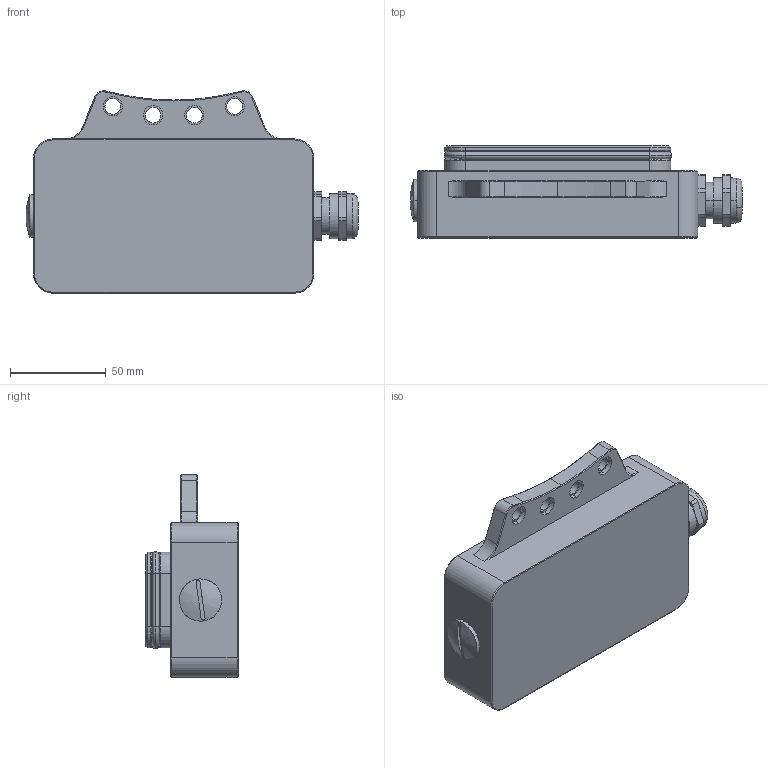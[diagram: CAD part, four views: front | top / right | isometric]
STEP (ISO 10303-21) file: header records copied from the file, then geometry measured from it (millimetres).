
FILE_DESCRIPTION (( 'STEP AP203' ), '1' );
FILE_NAME ('ECM能源组合模块主侧.STEP', '2025-02-19T02:36:17', ( 'Windows User' ), ( 'P R C' ), 'SwSTEP 2.0', 'SolidWorks 2018', '' );
FILE_SCHEMA (( 'CONFIG_CONTROL_DESIGN' ));
Length unit declared in the file: millimetre
Products named in the file (1): ECM能源组合模块主侧
Bounding box: 172.97 x 48 x 105.36 mm (x, y, z)
Volume: 457549.7 mm3; surface area: 71331.6 mm2
Topology: 6 solids, 54 shells, 1834 faces, 4556 edges, 2947 vertices
Faces by surface type: plane 958, cylinder 508, bspline 225, cone 127, sphere 16
Entity records: 68389 total; most frequent: CARTESIAN_POINT 25178, ORIENTED_EDGE 9088, DIRECTION 8704, EDGE_CURVE 4544, AXIS2_PLACEMENT_3D 3021, VERTEX_POINT 2947, VECTOR 2662, LINE 2662
